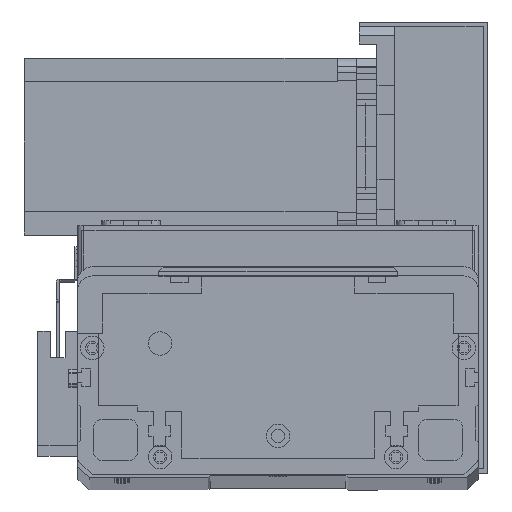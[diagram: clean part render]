
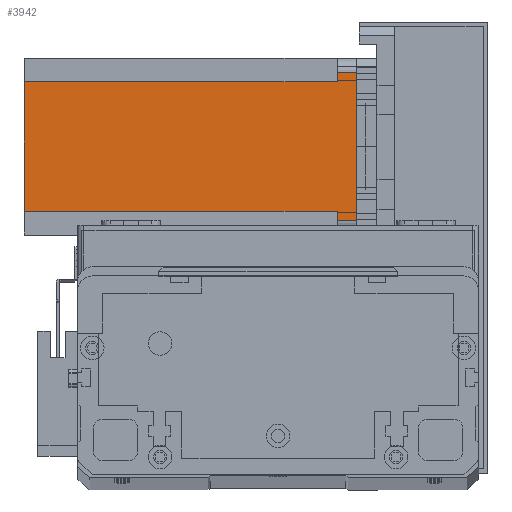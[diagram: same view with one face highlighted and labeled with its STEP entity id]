
A CAD part, top view. The second image highlights one B-rep face of the part: STEP entity #3942.
In plain terms, the highlighted planar face has unit normal (0, 0, 1) as drawn and (0, 1, 0) by its records, which use the part's own axes.
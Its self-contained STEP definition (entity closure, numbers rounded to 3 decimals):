
#544 = DIRECTION ( 'NONE',  ( -1., 0., 0. ) ) ;
#866 = LINE ( 'NONE', #27831, #13726 ) ;
#1561 = ORIENTED_EDGE ( 'NONE', *, *, #27593, .T. ) ;
#1828 = ORIENTED_EDGE ( 'NONE', *, *, #22413, .F. ) ;
#1932 = LINE ( 'NONE', #22703, #13252 ) ;
#3137 = ORIENTED_EDGE ( 'NONE', *, *, #27417, .F. ) ;
#3942 = ADVANCED_FACE ( 'NONE', ( #17649 ), #26553, .T. ) ;
#4027 = ORIENTED_EDGE ( 'NONE', *, *, #28337, .T. ) ;
#4762 = VERTEX_POINT ( 'NONE', #23408 ) ;
#4925 = VERTEX_POINT ( 'NONE', #4936 ) ;
#4936 = CARTESIAN_POINT ( 'NONE',  ( 5., 60., -6.5 ) ) ;
#5159 = CARTESIAN_POINT ( 'NONE',  ( 52., 60., -6.5 ) ) ;
#5200 = CARTESIAN_POINT ( 'NONE',  ( 55., 60., -6.5 ) ) ;
#5239 = DIRECTION ( 'NONE',  ( 1., 0., 0. ) ) ;
#5292 = CARTESIAN_POINT ( 'NONE',  ( 55., 60., 0. ) ) ;
#5507 = CARTESIAN_POINT ( 'NONE',  ( 8., 60., -112.5 ) ) ;
#6095 = ORIENTED_EDGE ( 'NONE', *, *, #27779, .F. ) ;
#7543 = VECTOR ( 'NONE', #5239, 1000. ) ;
#8041 = VERTEX_POINT ( 'NONE', #5200 ) ;
#8642 = VECTOR ( 'NONE', #23651, 1000. ) ;
#8761 = DIRECTION ( 'NONE',  ( -1., 0., 0. ) ) ;
#8797 = ORIENTED_EDGE ( 'NONE', *, *, #27053, .F. ) ;
#9417 = LINE ( 'NONE', #12032, #8642 ) ;
#10224 = DIRECTION ( 'NONE',  ( 0., 0., -1. ) ) ;
#11572 = VERTEX_POINT ( 'NONE', #19518 ) ;
#11734 = VERTEX_POINT ( 'NONE', #14313 ) ;
#12032 = CARTESIAN_POINT ( 'NONE',  ( 0., 60., -112.5 ) ) ;
#12655 = LINE ( 'NONE', #26832, #24338 ) ;
#13252 = VECTOR ( 'NONE', #8761, 1000. ) ;
#13610 = ORIENTED_EDGE ( 'NONE', *, *, #26780, .T. ) ;
#13726 = VECTOR ( 'NONE', #30089, 1000. ) ;
#13768 = CARTESIAN_POINT ( 'NONE',  ( 55., 60., -112.5 ) ) ;
#14072 = VECTOR ( 'NONE', #544, 1000. ) ;
#14313 = CARTESIAN_POINT ( 'NONE',  ( 8., 60., -6.5 ) ) ;
#15830 = LINE ( 'NONE', #5507, #28309 ) ;
#16162 = DIRECTION ( 'NONE',  ( 0., 0., -1. ) ) ;
#16564 = EDGE_LOOP ( 'NONE', ( #1828, #13610, #8797, #3137, #1561, #6095, #4027, #22577 ) ) ;
#17253 = CARTESIAN_POINT ( 'NONE',  ( 8., 60., -6.5 ) ) ;
#17445 = VERTEX_POINT ( 'NONE', #5159 ) ;
#17649 = FACE_OUTER_BOUND ( 'NONE', #16564, .T. ) ;
#19034 = AXIS2_PLACEMENT_3D ( 'NONE', #23481, #26455, #26392 ) ;
#19518 = CARTESIAN_POINT ( 'NONE',  ( 5., 60., 0. ) ) ;
#19561 = LINE ( 'NONE', #13768, #25121 ) ;
#20248 = LINE ( 'NONE', #17253, #14072 ) ;
#21315 = VERTEX_POINT ( 'NONE', #28176 ) ;
#22413 = EDGE_CURVE ( 'NONE', #22736, #11572, #1932, .T. ) ;
#22577 = ORIENTED_EDGE ( 'NONE', *, *, #28378, .T. ) ;
#22703 = CARTESIAN_POINT ( 'NONE',  ( 0., 60., 0. ) ) ;
#22736 = VERTEX_POINT ( 'NONE', #5292 ) ;
#23408 = CARTESIAN_POINT ( 'NONE',  ( 8., 60., -112.5 ) ) ;
#23481 = CARTESIAN_POINT ( 'NONE',  ( 0., 60., -112.5 ) ) ;
#23651 = DIRECTION ( 'NONE',  ( -1., 0., 0. ) ) ;
#24091 = CARTESIAN_POINT ( 'NONE',  ( 52., 60., -6.5 ) ) ;
#24338 = VECTOR ( 'NONE', #29167, 1000. ) ;
#25121 = VECTOR ( 'NONE', #16162, 1000. ) ;
#26392 = DIRECTION ( 'NONE',  ( 0., 0., 1. ) ) ;
#26455 = DIRECTION ( 'NONE',  ( 0., 1., 0. ) ) ;
#26553 = PLANE ( 'NONE',  #19034 ) ;
#26780 = EDGE_CURVE ( 'NONE', #22736, #8041, #19561, .T. ) ;
#26832 = CARTESIAN_POINT ( 'NONE',  ( 5., 60., -112.5 ) ) ;
#27053 = EDGE_CURVE ( 'NONE', #17445, #8041, #27649, .T. ) ;
#27417 = EDGE_CURVE ( 'NONE', #21315, #17445, #866, .T. ) ;
#27593 = EDGE_CURVE ( 'NONE', #21315, #4762, #9417, .T. ) ;
#27649 = LINE ( 'NONE', #24091, #7543 ) ;
#27779 = EDGE_CURVE ( 'NONE', #11734, #4762, #15830, .T. ) ;
#27831 = CARTESIAN_POINT ( 'NONE',  ( 52., 60., -112.5 ) ) ;
#28176 = CARTESIAN_POINT ( 'NONE',  ( 52., 60., -112.5 ) ) ;
#28309 = VECTOR ( 'NONE', #10224, 1000. ) ;
#28337 = EDGE_CURVE ( 'NONE', #11734, #4925, #20248, .T. ) ;
#28378 = EDGE_CURVE ( 'NONE', #4925, #11572, #12655, .T. ) ;
#29167 = DIRECTION ( 'NONE',  ( 0., 0., 1. ) ) ;
#30089 = DIRECTION ( 'NONE',  ( 0., 0., 1. ) ) ;
